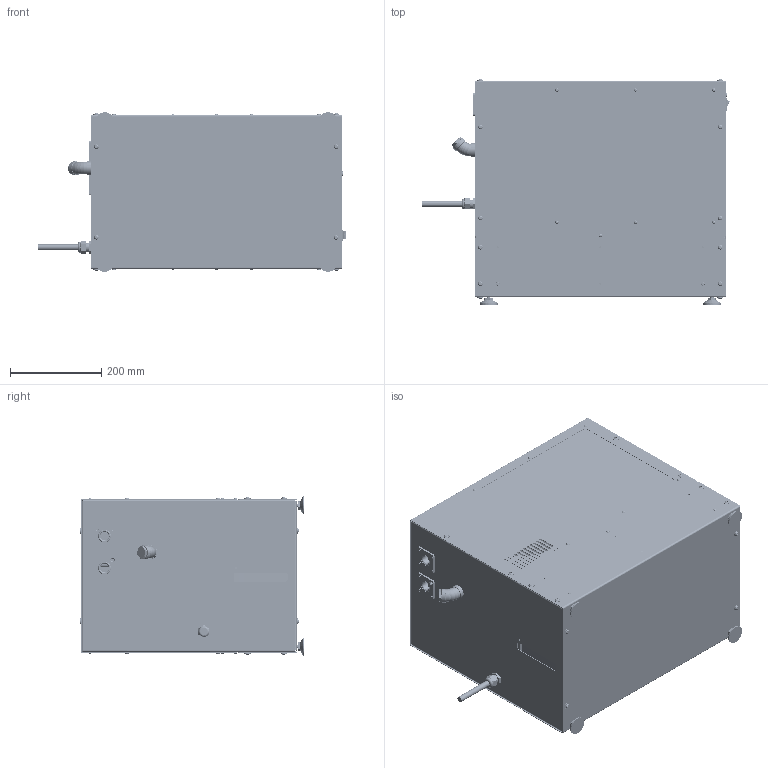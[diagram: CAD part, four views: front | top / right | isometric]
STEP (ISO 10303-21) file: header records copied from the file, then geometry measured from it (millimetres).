
FILE_DESCRIPTION (( 'STEP AP214' ), '1' );
FILE_NAME ('1ACC-900-200-00 - DEFEATURE- - _V-1.step', '2026-08-07T12:50:08', ( '' ), ( '' ), 'SwSTEP 2.0', 'SolidWorks 2025', '' );
FILE_SCHEMA (( 'AUTOMOTIVE_DESIGN' ));
Length unit declared in the file: millimetre
Products named in the file (1): 1ACC-900-200-00 - DEFEATURE- - _V-1
Bounding box: 674.84 x 493.4 x 349.94 mm (x, y, z)
Volume: 21601997.9 mm3; surface area: 4664675 mm2
Topology: 91 solids, 91 shells, 4433 faces, 11246 edges, 7262 vertices
Faces by surface type: plane 2263, cylinder 1268, cone 359, bspline 353, torus 178, sphere 12
Entity records: 172387 total; most frequent: CARTESIAN_POINT 65119, ORIENTED_EDGE 22452, DIRECTION 21065, EDGE_CURVE 11226, VERTEX_POINT 7256, AXIS2_PLACEMENT_3D 7162, VECTOR 6741, LINE 6741
